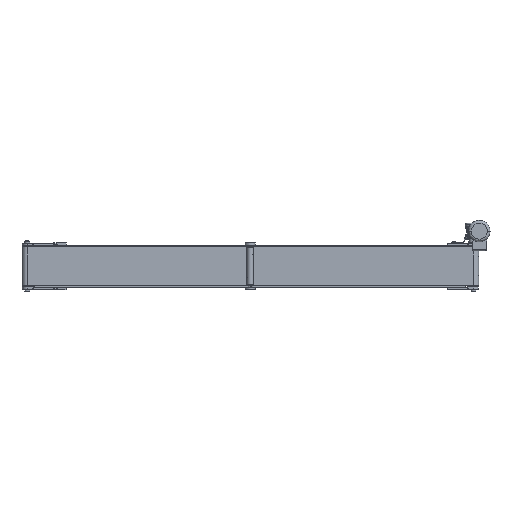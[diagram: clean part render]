
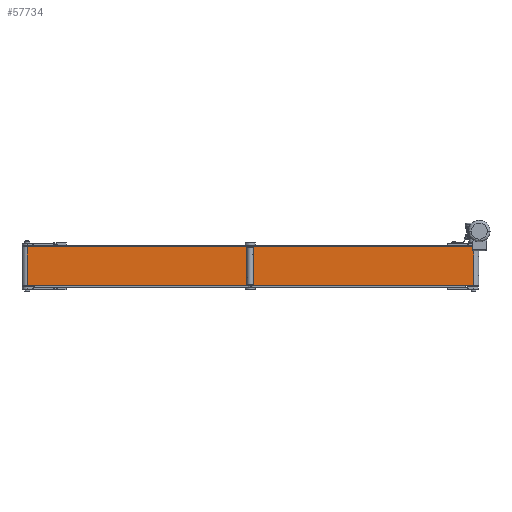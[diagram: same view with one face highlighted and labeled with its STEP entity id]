
A CAD part, front view. The second image highlights one B-rep face of the part: STEP entity #57734.
In plain terms, the highlighted planar face has unit normal (0, -1, 0).
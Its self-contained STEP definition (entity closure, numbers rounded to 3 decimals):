
#2643 = LINE ( 'NONE', #2997, #44057 ) ;
#2997 = CARTESIAN_POINT ( 'NONE',  ( -1150., -27., -100. ) ) ;
#4676 = EDGE_CURVE ( 'NONE', #34095, #30395, #49598, .T. ) ;
#5409 = EDGE_LOOP ( 'NONE', ( #27884, #58325, #20815, #46731 ) ) ;
#8200 = VERTEX_POINT ( 'NONE', #64898 ) ;
#10326 = CARTESIAN_POINT ( 'NONE',  ( -1150., -27., 100. ) ) ;
#15723 = VERTEX_POINT ( 'NONE', #39145 ) ;
#16286 = LINE ( 'NONE', #10326, #32888 ) ;
#20582 = DIRECTION ( 'NONE',  ( 0., 0., -1. ) ) ;
#20815 = ORIENTED_EDGE ( 'NONE', *, *, #40177, .F. ) ;
#22076 = CARTESIAN_POINT ( 'NONE',  ( -1150., -27., 100. ) ) ;
#23387 = CARTESIAN_POINT ( 'NONE',  ( -1150., -27., 100. ) ) ;
#27884 = ORIENTED_EDGE ( 'NONE', *, *, #38409, .T. ) ;
#29705 = CARTESIAN_POINT ( 'NONE',  ( -1150., -27., 100. ) ) ;
#30395 = VERTEX_POINT ( 'NONE', #68979 ) ;
#31572 = AXIS2_PLACEMENT_3D ( 'NONE', #22076, #37304, #43684 ) ;
#31878 = CARTESIAN_POINT ( 'NONE',  ( 1150., -27., 100. ) ) ;
#32888 = VECTOR ( 'NONE', #41826, 1000. ) ;
#34095 = VERTEX_POINT ( 'NONE', #29705 ) ;
#37304 = DIRECTION ( 'NONE',  ( 0., 1., 0. ) ) ;
#38002 = PLANE ( 'NONE',  #31572 ) ;
#38409 = EDGE_CURVE ( 'NONE', #30395, #8200, #2643, .T. ) ;
#39145 = CARTESIAN_POINT ( 'NONE',  ( 1150., -27., 100. ) ) ;
#40177 = EDGE_CURVE ( 'NONE', #34095, #15723, #16286, .T. ) ;
#41826 = DIRECTION ( 'NONE',  ( 1., 0., 0. ) ) ;
#43322 = FACE_OUTER_BOUND ( 'NONE', #5409, .T. ) ;
#43684 = DIRECTION ( 'NONE',  ( 0., 0., 1. ) ) ;
#44057 = VECTOR ( 'NONE', #62748, 1000. ) ;
#46731 = ORIENTED_EDGE ( 'NONE', *, *, #4676, .T. ) ;
#47826 = LINE ( 'NONE', #31878, #68789 ) ;
#49598 = LINE ( 'NONE', #23387, #60770 ) ;
#49941 = DIRECTION ( 'NONE',  ( 0., 0., -1. ) ) ;
#57060 = EDGE_CURVE ( 'NONE', #15723, #8200, #47826, .T. ) ;
#57734 = ADVANCED_FACE ( 'NONE', ( #43322 ), #38002, .F. ) ;
#58325 = ORIENTED_EDGE ( 'NONE', *, *, #57060, .F. ) ;
#60770 = VECTOR ( 'NONE', #49941, 1000. ) ;
#62748 = DIRECTION ( 'NONE',  ( 1., 0., 0. ) ) ;
#64898 = CARTESIAN_POINT ( 'NONE',  ( 1150., -27., -100. ) ) ;
#68789 = VECTOR ( 'NONE', #20582, 1000. ) ;
#68979 = CARTESIAN_POINT ( 'NONE',  ( -1150., -27., -100. ) ) ;
